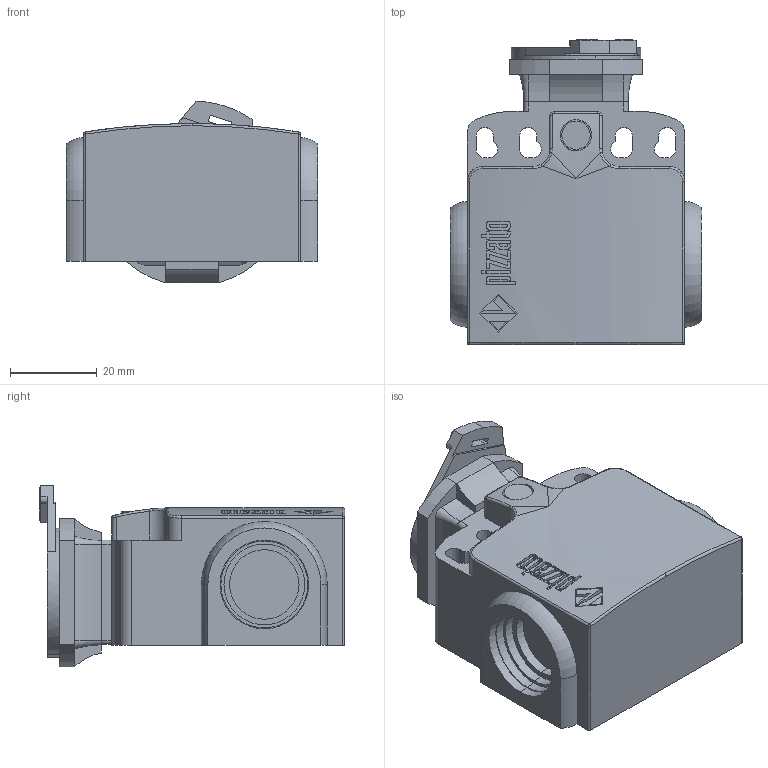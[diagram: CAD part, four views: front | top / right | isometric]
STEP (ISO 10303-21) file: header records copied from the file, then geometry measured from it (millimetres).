
FILE_DESCRIPTION (( 'STEP AP203' ), '1' );
FILE_NAME ('ZF_STEP_FX_xE2.STEP', '2024-01-09T17:46:10', ( '' ), ( '' ), 'SwSTEP 2.0', 'SolidWorks 2020', '' );
FILE_SCHEMA (( 'CONFIG_CONTROL_DESIGN' ));
Length unit declared in the file: millimetre
Products named in the file (7): Pizzato_Custodia_FX_3dweb; Pizzato_pistoncino_TEE2_3404; ZF_STEP_FX_xE2; ZF_STEP_VF_TEE2; Pizzato_TEE2_fissaggio_20512; Pizzato_TEE2_base_20511
Assembly tree (6 placements, depth 3):
  ZF_STEP_FX_xE2
    Pizzato_Custodia_FX_3dweb
      Pizzato_Custodia_FX_3dweb
    ZF_STEP_VF_TEE2
      Pizzato_TEE2_base_20511
      Pizzato_TEE2_fissaggio_20512
      Pizzato_pistoncino_TEE2_3404
Bounding box: 58 x 70.3 x 41.88 mm (x, y, z)
Volume: 85130.5 mm3; surface area: 22346.1 mm2
Topology: 4 solids, 4 shells, 600 faces, 1589 edges, 1042 vertices
Faces by surface type: plane 316, cylinder 135, bspline 131, torus 12, sphere 4, cone 2
Entity records: 23638 total; most frequent: CARTESIAN_POINT 8680, ORIENTED_EDGE 3170, DIRECTION 2591, EDGE_CURVE 1585, VERTEX_POINT 1042, VECTOR 949, LINE 949, AXIS2_PLACEMENT_3D 821
